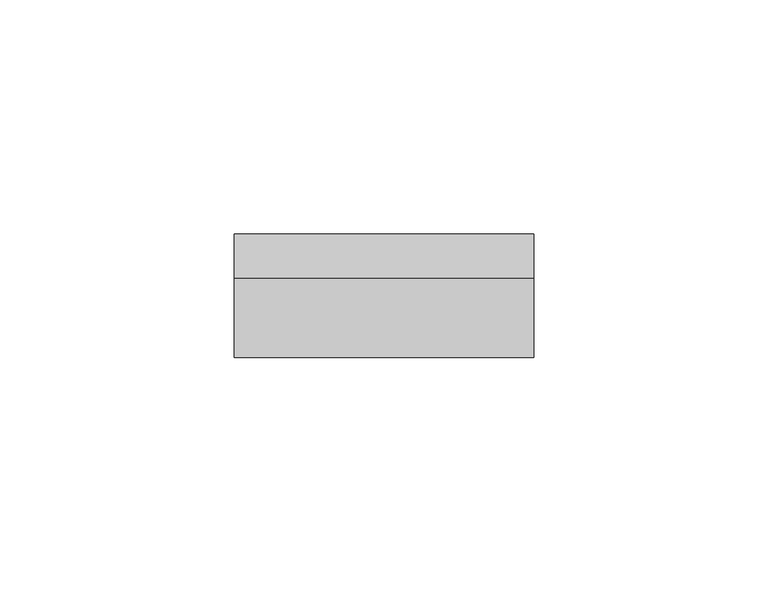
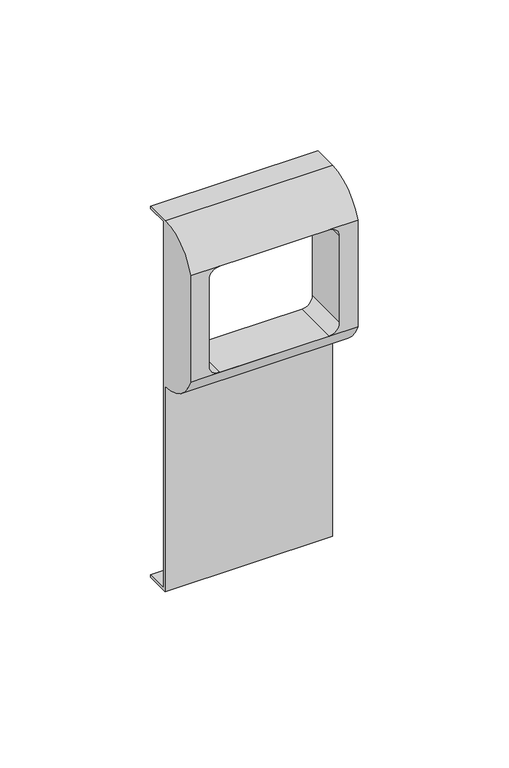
"""IFC4 building model written with IfcOpenShell, lengths in millimetres: proxy geometry."""

from ifc_helpers import new_model, si_unit, frame, origin, place, context, project, spatial, polyline, circle_curve, source, transform, mapped, element, save
from ifc_brep_helpers import plane_surface, cylinder_surface, revolved_surface, advanced_brep


def electrical_fixtures_5d0bade8(model_context):
    return source(origin(), model_context, "Body", "AdvancedBrep", [
        advanced_brep(
        [(32.0, 8.4, 74.0), (32.0, 8.4, 75.0), (32.0, -1.0, 75.0), (32.0, -18.0, 63.0), (32.0, -18.0, 20.0), (32.0, -1.0, 8.0), (32.0, -1.0, -75.0), (32.0, 8.4, -75.0), (32.0, 8.4, -74.0), (32.0, 0.0, -74.0), (32.0, 0.0, 74.0), (-32.0, 8.4, 74.0), (-32.0, 0.0, 74.0), (-32.0, 0.0, -74.0), (-32.0, 8.4, -74.0), (-32.0, 8.4, -75.0), (-32.0, -1.0, -75.0), (-32.0, -1.0, 8.0), (-32.0, -18.0, 20.0), (-32.0, -18.0, 63.0), (-32.0, -1.0, 75.0), (-32.0, 8.4, 75.0), (20.9686648, -18.0, 63.0), (25.0, -18.0, 58.9686648), (25.0, -18.0, 24.0313352), (20.9686648, -18.0, 20.0), (-20.9686648, -18.0, 20.0), (-25.0, -18.0, 24.0313352), (-25.0, -18.0, 58.9686648), (-20.9686648, -18.0, 63.0), (20.9686648, 0.0, 63.0), (-20.9686648, 0.0, 63.0), (-25.0, 0.0, 58.9686648), (-25.0, 0.0, 24.0313352), (-20.9686648, 0.0, 20.0), (20.9686648, 0.0, 20.0), (25.0, 0.0, 24.0313352), (25.0, 0.0, 58.9686648)],
        [
            (0, 1),
            (1, 2),
            (2, 3, circle_curve(frame((32.0, -1.0, 56.9583333), z_axis=(1.0, 0.0, 0.0), x_axis=(0.0, 1.0, 0.0)), 18.0416667)),
            (3, 4),
            (4, 5, circle_curve(frame((32.0, -1.0, 26.0416667), z_axis=(1.0, 0.0, 0.0), x_axis=(0.0, 1.0, 0.0)), 18.0416667)),
            (5, 6),
            (6, 7),
            (7, 8),
            (8, 9),
            (9, 10),
            (10, 0),
            (11, 12),
            (12, 13),
            (13, 14),
            (14, 15),
            (15, 16),
            (16, 17),
            (17, 18, circle_curve(frame((-32.0, -1.0, 26.0416667), z_axis=(-1.0, 0.0, 0.0), x_axis=(0.0, 1.0, 0.0)), 18.0416667)),
            (18, 19),
            (19, 20, circle_curve(frame((-32.0, -1.0, 56.9583333), z_axis=(-1.0, 0.0, 0.0), x_axis=(0.0, 1.0, 0.0)), 18.0416667)),
            (20, 21),
            (21, 11),
            (0, 11),
            (21, 1),
            (20, 2),
            (3, 22),
            (22, 23, circle_curve(frame((20.9686648, -18.0, 58.9686648), z_axis=(0.0, 1.0, 0.0), x_axis=(1.0, 0.0, 0.0)), 4.0313352)),
            (23, 24),
            (24, 25, circle_curve(frame((20.9686648, -18.0, 24.0313352), z_axis=(0.0, 1.0, 0.0), x_axis=(1.0, 0.0, 0.0)), 4.0313352)),
            (25, 4),
            (18, 26),
            (26, 27, circle_curve(frame((-20.9686648, -18.0, 24.0313352), z_axis=(0.0, 1.0, 0.0), x_axis=(1.0, 0.0, 0.0)), 4.0313352)),
            (27, 28),
            (28, 29, circle_curve(frame((-20.9686648, -18.0, 58.9686648), z_axis=(0.0, 1.0, 0.0), x_axis=(1.0, 0.0, 0.0)), 4.0313352)),
            (29, 19),
            (5, 17),
            (16, 6),
            (15, 7),
            (14, 8),
            (13, 9),
            (12, 10),
            (30, 31),
            (31, 32, circle_curve(frame((-20.9686648, 0.0, 58.9686648), z_axis=(0.0, -1.0, 0.0), x_axis=(1.0, 0.0, 0.0)), 4.0313352)),
            (32, 33),
            (33, 34, circle_curve(frame((-20.9686648, 0.0, 24.0313352), z_axis=(0.0, -1.0, 0.0), x_axis=(1.0, 0.0, 0.0)), 4.0313352)),
            (34, 35),
            (35, 36, circle_curve(frame((20.9686648, 0.0, 24.0313352), z_axis=(0.0, -1.0, 0.0), x_axis=(1.0, 0.0, 0.0)), 4.0313352)),
            (36, 37),
            (37, 30, circle_curve(frame((20.9686648, 0.0, 58.9686648), z_axis=(0.0, -1.0, 0.0), x_axis=(1.0, 0.0, 0.0)), 4.0313352)),
            (29, 22),
            (25, 26),
            (29, 31),
            (30, 22),
            (28, 32),
            (27, 33),
            (26, 34),
            (25, 35),
            (24, 36),
            (23, 37),
        ],
        [
            plane_surface(frame((32.0, 8.4, 75.0), z_axis=(1.0, 0.0, 0.0), x_axis=(0.0, 0.0, 1.0))),
            plane_surface(frame((-32.0, 8.4, 75.0), z_axis=(-1.0, 0.0, 0.0), x_axis=(0.0, 0.0, -1.0))),
            plane_surface(frame((32.0, 8.4, 74.0), z_axis=(0.0, 1.0, 0.0), x_axis=(-1.0, 0.0, 0.0))),
            plane_surface(frame((32.0, 8.4, 75.0), z_axis=(0.0, 0.0, 1.0), x_axis=(-1.0, 0.0, 0.0))),
            plane_surface(frame((32.0, -18.0, 63.0), z_axis=(0.0, -1.0, 0.0), x_axis=(-1.0, 0.0, 0.0))),
            plane_surface(frame((32.0, -1.0, 8.0), z_axis=(0.0, -1.0, 0.0), x_axis=(-1.0, 0.0, 0.0))),
            plane_surface(frame((32.0, -1.0, -75.0), z_axis=(0.0, 0.0, -1.0), x_axis=(-1.0, 0.0, 0.0))),
            plane_surface(frame((32.0, 8.4, -75.0), z_axis=(0.0, 1.0, 0.0), x_axis=(-1.0, 0.0, 0.0))),
            plane_surface(frame((32.0, 8.4, -74.0), z_axis=(0.0, 0.0, 1.0), x_axis=(-1.0, 0.0, 0.0))),
            plane_surface(frame((32.0, 0.0, -74.0), z_axis=(0.0, 1.0, 0.0), x_axis=(-1.0, 0.0, 0.0))),
            plane_surface(frame((32.0, 0.0, 74.0), z_axis=(0.0, 0.0, -1.0), x_axis=(-1.0, 0.0, 0.0))),
            cylinder_surface(frame((-32.0, -1.0, 56.9583333), z_axis=(1.0, 0.0, 0.0), x_axis=(0.0, 1.0, 0.0)), 18.0416667),
            cylinder_surface(frame((-32.0, -1.0, 26.0416667), z_axis=(1.0, 0.0, 0.0), x_axis=(0.0, 1.0, 0.0)), 18.0416667),
            plane_surface(frame((20.9686648, -18.0, 63.0), z_axis=(0.0, 0.0, -1.0), x_axis=(0.0, 1.0, 0.0))),
            revolved_surface(polyline([(-16.937329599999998, -18.0, 58.9686648), (-16.937329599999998, 0.0, 58.9686648)]), (-20.9686648, 0.0, 58.9686648), (0.0, -1.0, 0.0)),
            plane_surface(frame((-25.0, -18.0, 58.9686648), z_axis=(1.0, 0.0, 0.0), x_axis=(0.0, 1.0, 0.0))),
            revolved_surface(polyline([(-16.937329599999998, -18.0, 24.0313352), (-16.937329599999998, 0.0, 24.0313352)]), (-20.9686648, 0.0, 24.0313352), (0.0, -1.0, 0.0)),
            plane_surface(frame((-20.9686648, -18.0, 20.0), z_axis=(0.0, 0.0, 1.0), x_axis=(0.0, 1.0, 0.0))),
            revolved_surface(polyline([(25.0, -18.0, 24.0313352), (25.0, 0.0, 24.0313352)]), (20.9686648, 0.0, 24.0313352), (0.0, -1.0, 0.0)),
            plane_surface(frame((25.0, -18.0, 24.0313352), z_axis=(-1.0, 0.0, 0.0), x_axis=(0.0, 1.0, 0.0))),
            revolved_surface(polyline([(25.0, -18.0, 58.9686648), (25.0, 0.0, 58.9686648)]), (20.9686648, 0.0, 58.9686648), (0.0, -1.0, 0.0)),
        ],
        [
            (0, [[1, 2, 3, 4, 5, 6, 7, 8, 9, 10, 11]]),
            (1, [[12, 13, 14, 15, 16, 17, 18, 19, 20, 21, 22]]),
            (2, [[-1, 23, -22, 24]]),
            (3, [[-2, -24, -21, 25]]),
            (4, [[-4, 26, 27, 28, 29, 30]]),
            (4, [[-19, 31, 32, 33, 34, 35]]),
            (5, [[-6, 36, -17, 37]]),
            (6, [[-7, -37, -16, 38]]),
            (7, [[-8, -38, -15, 39]]),
            (8, [[-9, -39, -14, 40]]),
            (9, [[-10, -40, -13, 41], [42, 43, 44, 45, 46, 47, 48, 49]]),
            (10, [[-11, -41, -12, -23]]),
            (11, [[-3, -25, -20, -35, 50, -26]]),
            (12, [[-5, -30, 51, -31, -18, -36]]),
            (13, [[52, -42, 53, -50]]),
            (14, [[-52, -34, 54, -43]]),
            (15, [[-54, -33, 55, -44]]),
            (16, [[-55, -32, 56, -45]]),
            (17, [[-56, -51, 57, -46]]),
            (18, [[-57, -29, 58, -47]]),
            (19, [[-58, -28, 59, -48]]),
            (20, [[-53, -49, -59, -27]]),
        ],
    ),
    ])


if __name__ == "__main__":
    model = new_model("IFC4")
    model_context = context("Model", 3, world=origin())
    ifc_project = project(units=[si_unit("LENGTHUNIT", "METRE", prefix="MILLI")], contexts=[model_context])
    site = spatial("IfcSite", under=ifc_project)
    building = spatial("IfcBuilding", under=site)
    placement = place(None, origin())
    electrical_fixtures_shape = electrical_fixtures_5d0bade8(model_context)
    element("IfcBuildingElementProxy", 1, Name="КНС_РамкаСуппорт_ILC_DKC : Серия \"Brava\"", ObjectType="КНС_РамкаСуппорт_ILC_DKC : Серия \"Brava\"", at=placement, inside=building, context=model_context, shape_type="MappedRepresentation", body=[
        mapped(electrical_fixtures_shape, transform((0.0, 0.0, 0.0), x_axis=(1.0, 0.0, 0.0), y_axis=(0.0, 1.0, 0.0), z_axis=(0.0, 0.0, 1.0))),
    ])
    save(model, "model.ifc")
